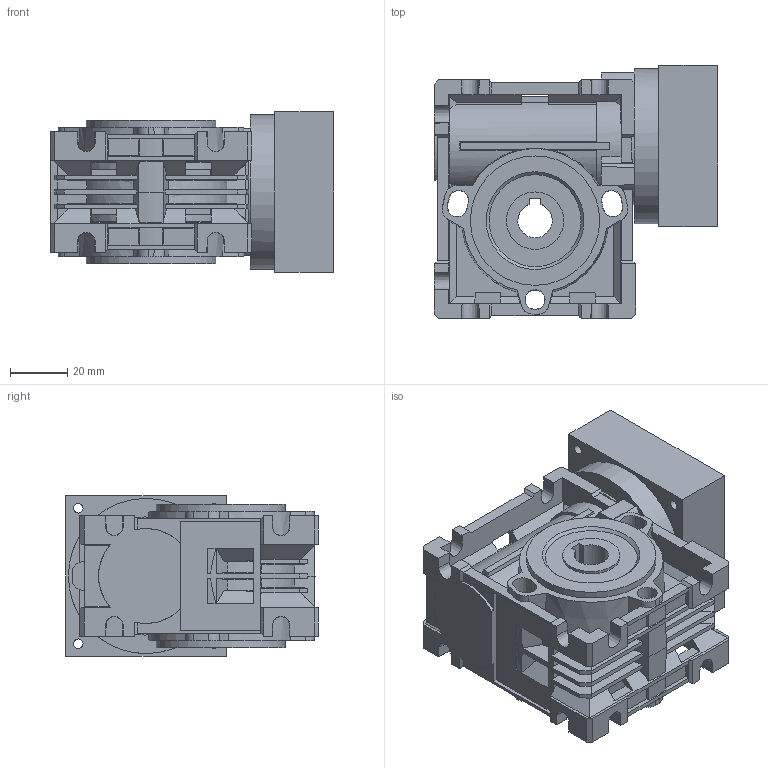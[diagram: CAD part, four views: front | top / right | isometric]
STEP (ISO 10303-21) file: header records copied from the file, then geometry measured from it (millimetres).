
FILE_DESCRIPTION( ( 'Unknown' ), '1' );
FILE_NAME( 'H:/Gear/Transtecno/CM26_AS66_ATP53/HTTV-26-xx-NEMA23.stp', 'Unknown', ( 'Unknown' ), ( 'Unknown' ), 'PSStep 11.0', 'Unknown', ' ' );
FILE_SCHEMA( ( 'AUTOMOTIVE_DESIGN { 1 0 10303 214 1 1 1 1 }' ) );
Length unit declared in the file: millimetre
Products named in the file (2): ATP53.04
Bounding box: 98.5 x 88 x 56 mm (x, y, z)
Volume: 236626.3 mm3; surface area: 64802.5 mm2
Topology: 2 solids, 2 shells, 653 faces, 1836 edges, 1190 vertices
Faces by surface type: plane 494, cone 88, cylinder 71
Full cylindrical faces by diameter (mm): 3 x1, 3.3 x4, 6.35 x1, 8.5 x3, 12 x1, 19.478 x1, 20 x4, 28 x1, 32 x1, 45 x2, 54 x1
Entity records: 26128 total; most frequent: CARTESIAN_POINT 4304, ORIENTED_EDGE 3574, DIRECTION 3272, EDGE_CURVE 1787, LINE 1308, VECTOR 1308, VERTEX_POINT 1174, AXIS2_PLACEMENT_3D 982
